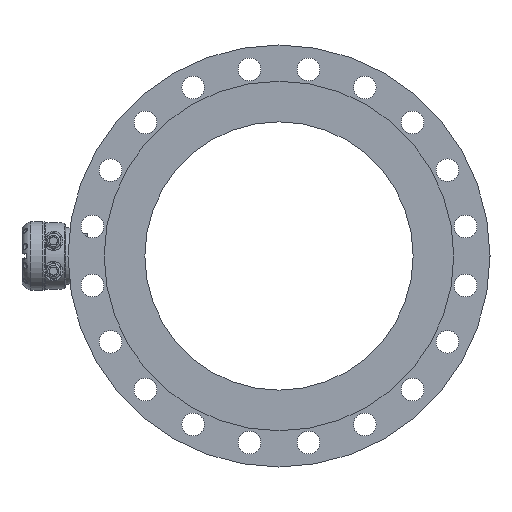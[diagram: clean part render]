
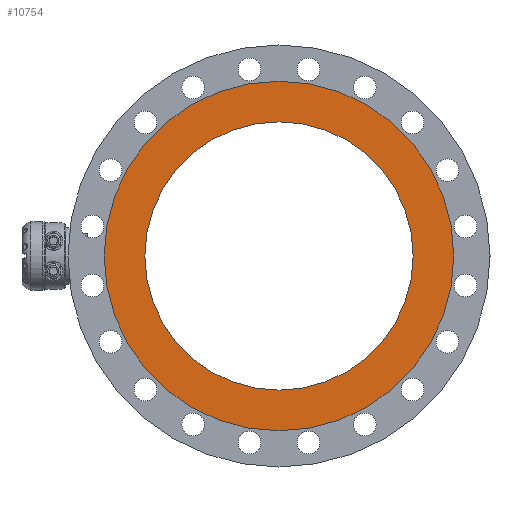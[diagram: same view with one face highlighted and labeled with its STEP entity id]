
A CAD part, left-side view. The second image highlights one B-rep face of the part: STEP entity #10754.
In plain terms, the highlighted planar face has unit normal (-1, 0, 0).
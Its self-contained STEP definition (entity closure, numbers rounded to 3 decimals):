
#719 = FACE_OUTER_BOUND ( 'NONE', #7807, .T. ) ;
#720 = FACE_BOUND ( 'NONE', #7391, .T. ) ;
#1547 = CIRCLE ( 'NONE', #12892, 213. ) ;
#3561 = PLANE ( 'NONE',  #12730 ) ;
#3564 = CARTESIAN_POINT ( 'NONE',  ( -394.805, -95.517, -10.543 ) ) ;
#3570 = DIRECTION ( 'NONE',  ( -1., 0., 0. ) ) ;
#3571 = DIRECTION ( 'NONE',  ( 0., 0., 1. ) ) ;
#4339 = CARTESIAN_POINT ( 'NONE',  ( -394.805, -308.517, -10.543 ) ) ;
#4349 = DIRECTION ( 'NONE',  ( 1., 0., 0. ) ) ;
#4350 = DIRECTION ( 'NONE',  ( 0., 0., -1. ) ) ;
#4577 = CARTESIAN_POINT ( 'NONE',  ( -394.805, -308.517, -10.543 ) ) ;
#4583 = DIRECTION ( 'NONE',  ( -1., 0., 0. ) ) ;
#4584 = DIRECTION ( 'NONE',  ( 0., 0., 1. ) ) ;
#5660 = CIRCLE ( 'NONE', #12928, 277.5 ) ;
#6395 = VERTEX_POINT ( 'NONE', #6397 ) ;
#6397 = CARTESIAN_POINT ( 'NONE',  ( -394.805, -308.517, -223.543 ) ) ;
#6475 = VERTEX_POINT ( 'NONE', #6476 ) ;
#6476 = CARTESIAN_POINT ( 'NONE',  ( -394.805, -308.517, 266.957 ) ) ;
#7216 = ORIENTED_EDGE ( 'NONE', *, *, #12271, .T. ) ;
#7217 = ORIENTED_EDGE ( 'NONE', *, *, #12364, .T. ) ;
#7391 = EDGE_LOOP ( 'NONE', ( #7216 ) ) ;
#7807 = EDGE_LOOP ( 'NONE', ( #7217 ) ) ;
#10754 = ADVANCED_FACE ( 'NONE', ( #720, #719 ), #3561, .T. ) ;
#12271 = EDGE_CURVE ( 'NONE', #6395, #6395, #1547, .T. ) ;
#12364 = EDGE_CURVE ( 'NONE', #6475, #6475, #5660, .T. ) ;
#12730 = AXIS2_PLACEMENT_3D ( 'NONE', #3564, #3570, #3571 ) ;
#12892 = AXIS2_PLACEMENT_3D ( 'NONE', #4339, #4349, #4350 ) ;
#12928 = AXIS2_PLACEMENT_3D ( 'NONE', #4577, #4583, #4584 ) ;
